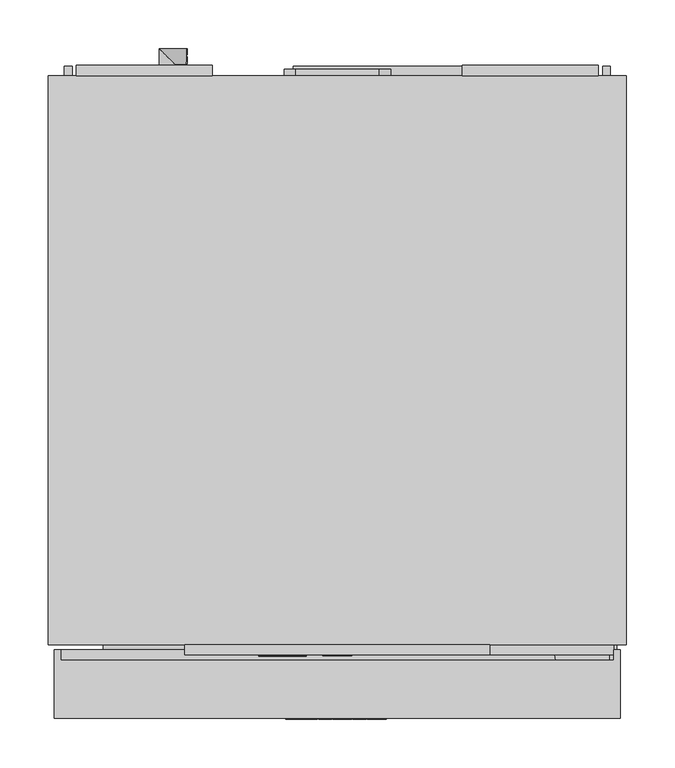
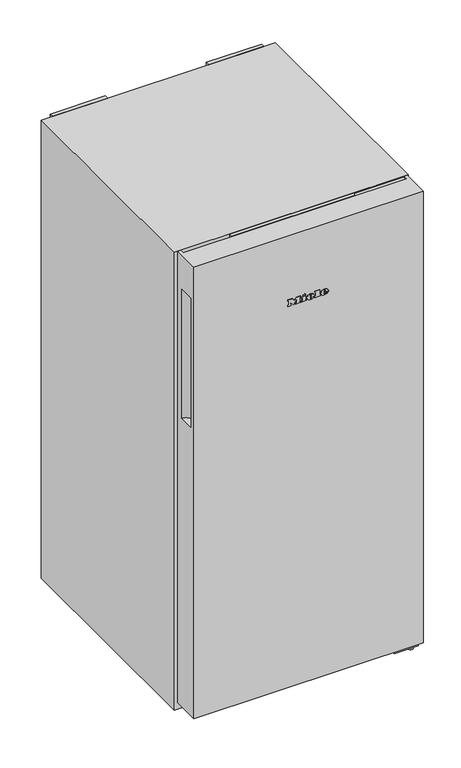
"""IFC4 building model written with IfcOpenShell, lengths in millimetres: proxy geometry, 12421630_EU1_FN4312D_WS : 37431244_EU1_12421630_FN4312D_WS."""

from ifc_helpers import new_model, si_unit, point, frame, frame_2d, origin, origin_with_axes, place, context, project, spatial, polyline, circle_curve, ellipse_curve, trimmed, segment, composite_curve, outline, extrude, faceted_brep, source, transform, mapped, element, save
from ifc_brep_helpers import plane_surface, cylinder_surface, revolved_surface, extruded_surface, advanced_brep


def specialty_equipment_585d7e85(model_context):
    return source(origin(), model_context, "Body", "SolidModel", [
        extrude(outline(polyline([(15.0, -609.5), (-15.0, -609.5), (-15.0, -606.5), (15.0, -606.5), (15.0, -609.5)])), frame((0.0, 0.0, 1212.0), z_axis=(0.0, 0.0, 1.0), x_axis=(1.0, 0.0, 0.0)), (0.0, 0.0, 1.0), 28.0),
        extrude(outline(polyline([(1245.5, 105.0), (1245.5, -105.0), (1206.5, -105.0), (1206.5, 105.0), (1245.5, 105.0)]), holes=[polyline([(1240.0, -15.0), (1240.0, 15.0), (1212.0, 15.0), (1212.0, -15.0), (1240.0, -15.0)])]), frame((0.0, -608.5, 0.0), z_axis=(0.0, 1.0, 0.0), x_axis=(0.0, 0.0, 1.0)), (0.0, 0.0, 1.0), 2.0),
        faceted_brep([(157.5, -598.5, 1202.0), (157.5, -608.5, 1202.0), (-157.5, -608.5, 1202.0), (-157.5, -598.5, 1202.0), (157.5, -598.5, 1250.0), (-157.5, -598.5, 1250.0), (-157.5, -608.5, 1250.0), (157.5, -608.5, 1250.0), (-105.0, -608.5, 1245.5), (105.0, -608.5, 1245.5), (105.0, -608.5, 1206.5), (-105.0, -608.5, 1206.5), (105.0, -606.5, 1245.5), (-105.0, -606.5, 1245.5), (-105.0, -606.5, 1206.5), (105.0, -606.5, 1206.5)], [[[0, 1, 2, 3]], [[4, 5, 6, 7]], [[0, 3, 5, 4]], [[3, 2, 6, 5]], [[2, 1, 7, 6], [8, 9, 10, 11]], [[1, 0, 4, 7]], [[12, 13, 14, 15]], [[13, 12, 9, 8]], [[14, 13, 8, 11]], [[15, 14, 11, 10]], [[12, 15, 10, 9]]]),
        advanced_brep(
        [(39.0804776, -675.5, 1068.7956125), (39.0804776, -675.5, 1070.5126125), (50.4534776, -675.5, 1070.5126125), (30.6654776, -675.5, 1070.5126125), (35.3404776, -675.5, 1064.7666125), (50.1644776, -675.5, 1068.7956125), (45.0304776, -675.5, 1068.7956125), (40.9844776, -675.5, 1066.8916125), (39.0804776, -675.5, 1072.6886125), (39.0804776, -675.5, 1074.5416125), (41.9874776, -675.5, 1074.5416125), (41.9874776, -675.5, 1072.6886125), (39.0804776, -674.5, 1068.7956125), (40.9844776, -674.5, 1066.8916125), (45.0304776, -674.5, 1068.7956125), (50.1644776, -674.5, 1068.7956125), (35.3404776, -674.5, 1064.7666125), (30.6654776, -674.5, 1070.5126125), (50.4534776, -674.5, 1070.5126125), (39.0804776, -674.5, 1070.5126125), (39.0804776, -674.5, 1072.6886125), (41.9874776, -674.5, 1072.6886125), (41.9874776, -674.5, 1074.5416125), (39.0804776, -674.5, 1074.5416125)],
        [
            (0, 1),
            (1, 2),
            (2, 3, ellipse_curve(frame((40.5594776, -675.5, 1070.5126125), z_axis=(0.0, -1.0, 0.0), x_axis=(-1.0, 0.0, 0.0)), 9.894, 8.177)),
            (3, 4, circle_curve(frame((37.2445704, -675.5, 1071.0906125), z_axis=(0.0, -1.0, 0.0), x_axis=(0.0, 0.0, -1.0)), 6.6044337)),
            (4, 5, circle_curve(frame((40.361414, -675.5, 1075.5786125), z_axis=(0.0, -1.0, 0.0), x_axis=(0.0, 0.0, -1.0)), 11.9209541)),
            (5, 6),
            (6, 7, circle_curve(frame((41.8154776, -675.5, 1070.3766125), z_axis=(0.0, 1.0, 0.0), x_axis=(0.0, 0.0, -1.0)), 3.5827065)),
            (7, 0, circle_curve(frame((40.9844776, -675.5, 1068.7956125), z_axis=(0.0, 1.0, 0.0), x_axis=(0.0, 0.0, -1.0)), 1.904)),
            (8, 9),
            (9, 10, circle_curve(frame((40.5339776, -675.5, 1074.5416125), z_axis=(0.0, 1.0, 0.0), x_axis=(0.0, 0.0, -1.0)), 1.4535)),
            (10, 11),
            (11, 8),
            (12, 13, circle_curve(frame((40.9844776, -674.5, 1068.7956125), z_axis=(0.0, -1.0, 0.0), x_axis=(0.0, 0.0, -1.0)), 1.904)),
            (13, 14, circle_curve(frame((41.8154776, -674.5, 1070.3766125), z_axis=(0.0, -1.0, 0.0), x_axis=(0.0, 0.0, -1.0)), 3.5827065)),
            (14, 15),
            (15, 16, circle_curve(frame((40.361414, -674.5, 1075.5786125), z_axis=(0.0, 1.0, 0.0), x_axis=(0.0, 0.0, -1.0)), 11.9209541)),
            (16, 17, circle_curve(frame((37.2445704, -674.5, 1071.0906125), z_axis=(0.0, 1.0, 0.0), x_axis=(0.0, 0.0, -1.0)), 6.6044337)),
            (17, 18, ellipse_curve(frame((40.5594776, -674.5, 1070.5126125), z_axis=(0.0, 1.0, 0.0), x_axis=(-1.0, 0.0, 0.0)), 9.894, 8.177)),
            (18, 19),
            (19, 12),
            (20, 21),
            (21, 22),
            (22, 23, circle_curve(frame((40.5339776, -674.5, 1074.5416125), z_axis=(0.0, -1.0, 0.0), x_axis=(0.0, 0.0, -1.0)), 1.4535)),
            (23, 20),
            (0, 12),
            (19, 1),
            (18, 2),
            (5, 15),
            (14, 6),
            (17, 3),
            (13, 7),
            (16, 4),
            (8, 20),
            (23, 9),
            (22, 10),
            (21, 11),
        ],
        [
            plane_surface(frame((39.0804776, -675.5, 1070.5126125), z_axis=(0.0, -1.0, 0.0), x_axis=(0.0, 0.0, 1.0))),
            plane_surface(frame((39.0804776, -674.5, 1070.5126125), z_axis=(0.0, 1.0, 0.0), x_axis=(0.0, 0.0, -1.0))),
            plane_surface(frame((39.0804776, -675.5, 1068.7956125), z_axis=(1.0, 0.0, 0.0), x_axis=(0.0, 1.0, 0.0))),
            plane_surface(frame((39.0804776, -675.5, 1070.5126125), z_axis=(0.0, 0.0, -1.0), x_axis=(0.0, 1.0, 0.0))),
            plane_surface(frame((50.1644776, -675.5, 1068.7956125), z_axis=(0.0, 0.0, 1.0), x_axis=(0.0, 1.0, 0.0))),
            extruded_surface(trimmed(ellipse_curve(frame((40.5594776, -673.5, 1070.5126125), z_axis=(0.0, -1.0, 0.0), x_axis=(-1.0, 0.0, 0.0)), 9.894, 8.177), [point((50.4534776, -673.5, 1070.5126125))], [point((30.6654776, -673.5, 1070.5126125))], True, "CARTESIAN"), (0.0, -1.0, 0.0), 1.0),
            revolved_surface(polyline([(41.8154776, -674.5, 1066.7939059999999), (41.8154776, -675.5, 1066.7939059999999)]), (41.8154776, -674.5, 1070.3766125), (0.0, 1.0, 0.0)),
            revolved_surface(polyline([(40.9844776, -674.5, 1066.8916125), (40.9844776, -675.5, 1066.8916125)]), (40.9844776, -674.5, 1068.7956125), (0.0, 1.0, 0.0)),
            cylinder_surface(frame((37.2445704, -674.5, 1071.0906125), z_axis=(0.0, -1.0, 0.0), x_axis=(0.0, 0.0, -1.0)), 6.6044337),
            cylinder_surface(frame((40.361414, -674.5, 1075.5786125), z_axis=(0.0, -1.0, 0.0), x_axis=(0.0, 0.0, -1.0)), 11.9209541),
            plane_surface(frame((39.0804776, -675.5, 1072.6886125), z_axis=(1.0, 0.0, 0.0), x_axis=(0.0, 1.0, 0.0))),
            revolved_surface(polyline([(40.5339776, -674.5, 1073.0881124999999), (40.5339776, -675.5, 1073.0881124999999)]), (40.5339776, -674.5, 1074.5416125), (0.0, 1.0, 0.0)),
            plane_surface(frame((41.9874776, -675.5, 1074.5416125), z_axis=(-1.0, 0.0, 0.0), x_axis=(0.0, 1.0, 0.0))),
            plane_surface(frame((41.9874776, -675.5, 1072.6886125), z_axis=(0.0, 0.0, 1.0), x_axis=(0.0, 1.0, 0.0))),
        ],
        [
            (0, [[1, 2, 3, 4, 5, 6, 7, 8], [9, 10, 11, 12]]),
            (1, [[13, 14, 15, 16, 17, 18, 19, 20], [21, 22, 23, 24]]),
            (2, [[-1, 25, -20, 26]]),
            (3, [[-2, -26, -19, 27]]),
            (4, [[-6, 28, -15, 29]]),
            (5, [[-3, -27, -18, 30]]),
            (6, [[-7, -29, -14, 31]]),
            (7, [[-8, -31, -13, -25]]),
            (8, [[-4, -30, -17, 32]]),
            (9, [[-5, -32, -16, -28]]),
            (10, [[-9, 33, -24, 34]]),
            (11, [[-10, -34, -23, 35]]),
            (12, [[-11, -35, -22, 36]]),
            (13, [[-12, -36, -21, -33]]),
        ],
    ),
        advanced_brep(
        [(3.6014776, -675.5, 1068.7956125), (3.6014776, -675.5, 1070.5126125), (14.9744776, -675.5, 1070.5126125), (-4.8135224, -675.5, 1070.5126125), (-0.1385224, -675.5, 1064.7666125), (14.6854776, -675.5, 1068.7956125), (9.5514776, -675.5, 1068.7956125), (5.5054776, -675.5, 1066.8916125), (3.6014776, -675.5, 1072.6886125), (3.6014776, -675.5, 1074.5416125), (6.5084776, -675.5, 1074.5416125), (6.5084776, -675.5, 1072.6886125), (3.6014776, -674.5, 1068.7956125), (5.5054776, -674.5, 1066.8916125), (9.5514776, -674.5, 1068.7956125), (14.6854776, -674.5, 1068.7956125), (-0.1385224, -674.5, 1064.7666125), (-4.8135224, -674.5, 1070.5126125), (14.9744776, -674.5, 1070.5126125), (3.6014776, -674.5, 1070.5126125), (3.6014776, -674.5, 1072.6886125), (6.5084776, -674.5, 1072.6886125), (6.5084776, -674.5, 1074.5416125), (3.6014776, -674.5, 1074.5416125)],
        [
            (0, 1),
            (1, 2),
            (2, 3, ellipse_curve(frame((5.0804776, -675.5, 1070.5126125), z_axis=(0.0, -1.0, 0.0), x_axis=(-1.0, 0.0, 0.0)), 9.894, 8.177)),
            (3, 4, circle_curve(frame((1.7655704, -675.5, 1071.0906125), z_axis=(0.0, -1.0, 0.0), x_axis=(0.0, 0.0, -1.0)), 6.6044337)),
            (4, 5, circle_curve(frame((4.882414, -675.5, 1075.5786125), z_axis=(0.0, -1.0, 0.0), x_axis=(0.0, 0.0, -1.0)), 11.9209541)),
            (5, 6),
            (6, 7, circle_curve(frame((6.3364776, -675.5, 1070.3766125), z_axis=(0.0, 1.0, 0.0), x_axis=(0.0, 0.0, -1.0)), 3.5827065)),
            (7, 0, circle_curve(frame((5.5054776, -675.5, 1068.7956125), z_axis=(0.0, 1.0, 0.0), x_axis=(0.0, 0.0, -1.0)), 1.904)),
            (8, 9),
            (9, 10, circle_curve(frame((5.0549776, -675.5, 1074.5416125), z_axis=(0.0, 1.0, 0.0), x_axis=(0.0, 0.0, -1.0)), 1.4535)),
            (10, 11),
            (11, 8),
            (12, 13, circle_curve(frame((5.5054776, -674.5, 1068.7956125), z_axis=(0.0, -1.0, 0.0), x_axis=(0.0, 0.0, -1.0)), 1.904)),
            (13, 14, circle_curve(frame((6.3364776, -674.5, 1070.3766125), z_axis=(0.0, -1.0, 0.0), x_axis=(0.0, 0.0, -1.0)), 3.5827065)),
            (14, 15),
            (15, 16, circle_curve(frame((4.882414, -674.5, 1075.5786125), z_axis=(0.0, 1.0, 0.0), x_axis=(0.0, 0.0, -1.0)), 11.9209541)),
            (16, 17, circle_curve(frame((1.7655704, -674.5, 1071.0906125), z_axis=(0.0, 1.0, 0.0), x_axis=(0.0, 0.0, -1.0)), 6.6044337)),
            (17, 18, ellipse_curve(frame((5.0804776, -674.5, 1070.5126125), z_axis=(0.0, 1.0, 0.0), x_axis=(-1.0, 0.0, 0.0)), 9.894, 8.177)),
            (18, 19),
            (19, 12),
            (20, 21),
            (21, 22),
            (22, 23, circle_curve(frame((5.0549776, -674.5, 1074.5416125), z_axis=(0.0, -1.0, 0.0), x_axis=(0.0, 0.0, -1.0)), 1.4535)),
            (23, 20),
            (0, 12),
            (19, 1),
            (18, 2),
            (5, 15),
            (14, 6),
            (17, 3),
            (13, 7),
            (16, 4),
            (8, 20),
            (23, 9),
            (22, 10),
            (21, 11),
        ],
        [
            plane_surface(frame((3.6014776, -675.5, 1070.5126125), z_axis=(0.0, -1.0, 0.0), x_axis=(0.0, 0.0, 1.0))),
            plane_surface(frame((3.6014776, -674.5, 1070.5126125), z_axis=(0.0, 1.0, 0.0), x_axis=(0.0, 0.0, -1.0))),
            plane_surface(frame((3.6014776, -675.5, 1068.7956125), z_axis=(1.0, 0.0, 0.0), x_axis=(0.0, 1.0, 0.0))),
            plane_surface(frame((3.6014776, -675.5, 1070.5126125), z_axis=(0.0, 0.0, -1.0), x_axis=(0.0, 1.0, 0.0))),
            plane_surface(frame((14.6854776, -675.5, 1068.7956125), z_axis=(0.0, 0.0, 1.0), x_axis=(0.0, 1.0, 0.0))),
            extruded_surface(trimmed(ellipse_curve(frame((5.0804776, -673.5, 1070.5126125), z_axis=(0.0, -1.0, 0.0), x_axis=(-1.0, 0.0, 0.0)), 9.894, 8.177), [point((14.9744776, -673.5, 1070.5126125))], [point((-4.8135224, -673.5, 1070.5126125))], True, "CARTESIAN"), (0.0, -1.0, 0.0), 1.0),
            revolved_surface(polyline([(6.3364776, -674.5, 1066.7939059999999), (6.3364776, -675.5, 1066.7939059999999)]), (6.3364776, -674.5, 1070.3766125), (0.0, 1.0, 0.0)),
            revolved_surface(polyline([(5.5054776, -674.5, 1066.8916125), (5.5054776, -675.5, 1066.8916125)]), (5.5054776, -674.5, 1068.7956125), (0.0, 1.0, 0.0)),
            cylinder_surface(frame((1.7655704, -674.5, 1071.0906125), z_axis=(0.0, -1.0, 0.0), x_axis=(0.0, 0.0, -1.0)), 6.6044337),
            cylinder_surface(frame((4.882414, -674.5, 1075.5786125), z_axis=(0.0, -1.0, 0.0), x_axis=(0.0, 0.0, -1.0)), 11.9209541),
            plane_surface(frame((3.6014776, -675.5, 1072.6886125), z_axis=(1.0, 0.0, 0.0), x_axis=(0.0, 1.0, 0.0))),
            revolved_surface(polyline([(5.0549776, -674.5, 1073.0881124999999), (5.0549776, -675.5, 1073.0881124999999)]), (5.0549776, -674.5, 1074.5416125), (0.0, 1.0, 0.0)),
            plane_surface(frame((6.5084776, -675.5, 1074.5416125), z_axis=(-1.0, 0.0, 0.0), x_axis=(0.0, 1.0, 0.0))),
            plane_surface(frame((6.5084776, -675.5, 1072.6886125), z_axis=(0.0, 0.0, 1.0), x_axis=(0.0, 1.0, 0.0))),
        ],
        [
            (0, [[1, 2, 3, 4, 5, 6, 7, 8], [9, 10, 11, 12]]),
            (1, [[13, 14, 15, 16, 17, 18, 19, 20], [21, 22, 23, 24]]),
            (2, [[-1, 25, -20, 26]]),
            (3, [[-2, -26, -19, 27]]),
            (4, [[-6, 28, -15, 29]]),
            (5, [[-3, -27, -18, 30]]),
            (6, [[-7, -29, -14, 31]]),
            (7, [[-8, -31, -13, -25]]),
            (8, [[-4, -30, -17, 32]]),
            (9, [[-5, -32, -16, -28]]),
            (10, [[-9, 33, -24, 34]]),
            (11, [[-10, -34, -23, 35]]),
            (12, [[-11, -35, -22, 36]]),
            (13, [[-12, -36, -21, -33]]),
        ],
    ),
        extrude(outline(polyline([(1080.7636125, -14.9795224), (1078.0096125, -13.6875224), (1080.6956125, -7.9245224), (1083.4496125, -9.1995224), (1080.7636125, -14.9795224)])), frame((0.0, -675.5, 0.0), z_axis=(0.0, 1.0, 0.0), x_axis=(0.0, 0.0, 1.0)), (0.0, 0.0, 1.0), 1.0),
        extrude(outline(polyline([(1077.6356125, -19.1785224), (1074.5926125, -19.1785224), (1074.5926125, -17.1555224), (1067.6226125, -17.1555224), (1067.6226125, -19.1785224), (1064.7666125, -19.1785224), (1064.7666125, -5.7655224), (1067.6226125, -5.7655224), (1067.6226125, -7.7375224), (1077.6356125, -7.7375224), (1077.6356125, -19.1785224)])), frame((0.0, -675.5, 0.0), z_axis=(0.0, 1.0, 0.0), x_axis=(0.0, 0.0, 1.0)), (0.0, 0.0, 1.0), 1.0),
        extrude(outline(polyline([(1078.9956125, 15.9264776), (1078.9956125, 17.9664776), (1067.6226125, 17.9664776), (1067.6226125, 15.9264776), (1064.7666125, 15.9264776), (1064.7666125, 29.7134776), (1067.6226125, 29.7134776), (1067.6226125, 27.6224776), (1081.7666125, 27.6224776), (1081.7666125, 15.9264776), (1078.9956125, 15.9264776)])), frame((0.0, -675.5, 0.0), z_axis=(0.0, 1.0, 0.0), x_axis=(0.0, 0.0, 1.0)), (0.0, 0.0, 1.0), 1.0),
        extrude(outline(polyline([(1078.9956125, -53.0595224), (1078.9956125, -51.0025224), (1067.6226125, -51.0025224), (1067.6226125, -53.0595224), (1064.7666125, -53.0595224), (1064.7666125, -45.5795224), (1067.6226125, -45.5795224), (1067.6226125, -47.6195224), (1074.7967372, -47.6195224), (1064.7666125, -40.0205224), (1075.2068348, -32.3875224), (1067.6226125, -32.3875224), (1067.6226125, -34.4785224), (1064.7666125, -34.4785224), (1064.7666125, -20.9125224), (1067.6226125, -20.9125224), (1067.6226125, -23.0715224), (1078.9956125, -23.0715224), (1078.9956125, -20.9125224), (1081.7666125, -20.9125224), (1081.7666125, -31.2655224), (1075.3916125, -36.2295224), (1081.7666125, -41.2105224), (1081.7666125, -53.0595224), (1078.9956125, -53.0595224)])), frame((0.0, -675.5, 0.0), z_axis=(0.0, 1.0, 0.0), x_axis=(0.0, 0.0, 1.0)), (0.0, 0.0, 1.0), 1.0),
        advanced_brep(
        [(-37.64, -610.5, 1228.896), (-37.64, -610.5, 1229.704), (-32.288, -610.5, 1229.704), (-41.6, -610.5, 1229.704), (-39.4, -610.5, 1227.0), (-32.424, -610.5, 1228.896), (-34.84, -610.5, 1228.896), (-36.744, -610.5, 1228.0), (-37.64, -610.5, 1230.728), (-37.64, -610.5, 1231.6), (-36.272, -610.5, 1231.6), (-36.272, -610.5, 1230.728), (-37.64, -609.5, 1228.896), (-36.744, -609.5, 1228.0), (-34.84, -609.5, 1228.896), (-32.424, -609.5, 1228.896), (-39.4, -609.5, 1227.0), (-41.6, -609.5, 1229.704), (-32.288, -609.5, 1229.704), (-37.64, -609.5, 1229.704), (-37.64, -609.5, 1230.728), (-36.272, -609.5, 1230.728), (-36.272, -609.5, 1231.6), (-37.64, -609.5, 1231.6)],
        [
            (0, 1),
            (1, 2),
            (2, 3, ellipse_curve(frame((-36.944, -610.5, 1229.704), z_axis=(0.0, -1.0, 0.0), x_axis=(-1.0, 0.0, 0.0)), 4.656, 3.848)),
            (3, 4, circle_curve(frame((-38.5039564, -610.5, 1229.976), z_axis=(0.0, -1.0, 0.0), x_axis=(0.0, 0.0, -1.0)), 3.1079688)),
            (4, 5, circle_curve(frame((-37.0372064, -610.5, 1232.088), z_axis=(0.0, -1.0, 0.0), x_axis=(0.0, 0.0, -1.0)), 5.6098607)),
            (5, 6),
            (6, 7, circle_curve(frame((-36.3529412, -610.5, 1229.64), z_axis=(0.0, 1.0, 0.0), x_axis=(0.0, 0.0, -1.0)), 1.6859795)),
            (7, 0, circle_curve(frame((-36.744, -610.5, 1228.896), z_axis=(0.0, 1.0, 0.0), x_axis=(0.0, 0.0, -1.0)), 0.896)),
            (8, 9),
            (9, 10, circle_curve(frame((-36.956, -610.5, 1231.6), z_axis=(0.0, 1.0, 0.0), x_axis=(0.0, 0.0, -1.0)), 0.684)),
            (10, 11),
            (11, 8),
            (12, 13, circle_curve(frame((-36.744, -609.5, 1228.896), z_axis=(0.0, -1.0, 0.0), x_axis=(0.0, 0.0, -1.0)), 0.896)),
            (13, 14, circle_curve(frame((-36.3529412, -609.5, 1229.64), z_axis=(0.0, -1.0, 0.0), x_axis=(0.0, 0.0, -1.0)), 1.6859795)),
            (14, 15),
            (15, 16, circle_curve(frame((-37.0372064, -609.5, 1232.088), z_axis=(0.0, 1.0, 0.0), x_axis=(0.0, 0.0, -1.0)), 5.6098607)),
            (16, 17, circle_curve(frame((-38.5039564, -609.5, 1229.976), z_axis=(0.0, 1.0, 0.0), x_axis=(0.0, 0.0, -1.0)), 3.1079688)),
            (17, 18, ellipse_curve(frame((-36.944, -609.5, 1229.704), z_axis=(0.0, 1.0, 0.0), x_axis=(-1.0, 0.0, 0.0)), 4.656, 3.848)),
            (18, 19),
            (19, 12),
            (20, 21),
            (21, 22),
            (22, 23, circle_curve(frame((-36.956, -609.5, 1231.6), z_axis=(0.0, -1.0, 0.0), x_axis=(0.0, 0.0, -1.0)), 0.684)),
            (23, 20),
            (0, 12),
            (19, 1),
            (18, 2),
            (5, 15),
            (14, 6),
            (17, 3),
            (13, 7),
            (16, 4),
            (8, 20),
            (23, 9),
            (22, 10),
            (21, 11),
        ],
        [
            plane_surface(frame((-37.64, -610.5, 1229.704), z_axis=(0.0, -1.0, 0.0), x_axis=(0.0, 0.0, 1.0))),
            plane_surface(frame((-37.64, -609.5, 1229.704), z_axis=(0.0, 1.0, 0.0), x_axis=(0.0, 0.0, -1.0))),
            plane_surface(frame((-37.64, -610.5, 1228.896), z_axis=(1.0, 0.0, 0.0), x_axis=(0.0, 1.0, 0.0))),
            plane_surface(frame((-37.64, -610.5, 1229.704), z_axis=(0.0, 0.0, -1.0), x_axis=(0.0, 1.0, 0.0))),
            plane_surface(frame((-32.424, -610.5, 1228.896), z_axis=(0.0, 0.0, 1.0), x_axis=(0.0, 1.0, 0.0))),
            extruded_surface(trimmed(ellipse_curve(frame((-36.944, -608.5, 1229.704), z_axis=(0.0, -1.0, 0.0), x_axis=(-1.0, 0.0, 0.0)), 4.656, 3.848), [point((-32.288, -608.5, 1229.704))], [point((-41.6, -608.5, 1229.704))], True, "CARTESIAN"), (0.0, -1.0, 0.0), 1.0),
            revolved_surface(polyline([(-36.3529412, -609.5, 1227.9540205), (-36.3529412, -610.5, 1227.9540205)]), (-36.3529412, -609.5, 1229.64), (0.0, 1.0, 0.0)),
            revolved_surface(polyline([(-36.744, -609.5, 1228.0), (-36.744, -610.5, 1228.0)]), (-36.744, -609.5, 1228.896), (0.0, 1.0, 0.0)),
            cylinder_surface(frame((-38.5039564, -609.5, 1229.976), z_axis=(0.0, -1.0, 0.0), x_axis=(0.0, 0.0, -1.0)), 3.1079688),
            cylinder_surface(frame((-37.0372064, -609.5, 1232.088), z_axis=(0.0, -1.0, 0.0), x_axis=(0.0, 0.0, -1.0)), 5.6098607),
            plane_surface(frame((-37.64, -610.5, 1230.728), z_axis=(1.0, 0.0, 0.0), x_axis=(0.0, 1.0, 0.0))),
            revolved_surface(polyline([(-36.956, -609.5, 1230.916), (-36.956, -610.5, 1230.916)]), (-36.956, -609.5, 1231.6), (0.0, 1.0, 0.0)),
            plane_surface(frame((-36.272, -610.5, 1231.6), z_axis=(-1.0, 0.0, 0.0), x_axis=(0.0, 1.0, 0.0))),
            plane_surface(frame((-36.272, -610.5, 1230.728), z_axis=(0.0, 0.0, 1.0), x_axis=(0.0, 1.0, 0.0))),
        ],
        [
            (0, [[1, 2, 3, 4, 5, 6, 7, 8], [9, 10, 11, 12]]),
            (1, [[13, 14, 15, 16, 17, 18, 19, 20], [21, 22, 23, 24]]),
            (2, [[-1, 25, -20, 26]]),
            (3, [[-2, -26, -19, 27]]),
            (4, [[-6, 28, -15, 29]]),
            (5, [[-3, -27, -18, 30]]),
            (6, [[-7, -29, -14, 31]]),
            (7, [[-8, -31, -13, -25]]),
            (8, [[-4, -30, -17, 32]]),
            (9, [[-5, -32, -16, -28]]),
            (10, [[-9, 33, -24, 34]]),
            (11, [[-10, -34, -23, 35]]),
            (12, [[-11, -35, -22, 36]]),
            (13, [[-12, -36, -21, -33]]),
        ],
    ),
        advanced_brep(
        [(-54.336, -610.5, 1228.896), (-54.336, -610.5, 1229.704), (-48.984, -610.5, 1229.704), (-58.296, -610.5, 1229.704), (-56.096, -610.5, 1227.0), (-49.12, -610.5, 1228.896), (-51.536, -610.5, 1228.896), (-53.44, -610.5, 1228.0), (-54.336, -610.5, 1230.728), (-54.336, -610.5, 1231.6), (-52.968, -610.5, 1231.6), (-52.968, -610.5, 1230.728), (-54.336, -609.5, 1228.896), (-53.44, -609.5, 1228.0), (-51.536, -609.5, 1228.896), (-49.12, -609.5, 1228.896), (-56.096, -609.5, 1227.0), (-58.296, -609.5, 1229.704), (-48.984, -609.5, 1229.704), (-54.336, -609.5, 1229.704), (-54.336, -609.5, 1230.728), (-52.968, -609.5, 1230.728), (-52.968, -609.5, 1231.6), (-54.336, -609.5, 1231.6)],
        [
            (0, 1),
            (1, 2),
            (2, 3, ellipse_curve(frame((-53.64, -610.5, 1229.704), z_axis=(0.0, -1.0, 0.0), x_axis=(-1.0, 0.0, 0.0)), 4.656, 3.848)),
            (3, 4, circle_curve(frame((-55.1999564, -610.5, 1229.976), z_axis=(0.0, -1.0, 0.0), x_axis=(0.0, 0.0, -1.0)), 3.1079688)),
            (4, 5, circle_curve(frame((-53.7332064, -610.5, 1232.088), z_axis=(0.0, -1.0, 0.0), x_axis=(0.0, 0.0, -1.0)), 5.6098607)),
            (5, 6),
            (6, 7, circle_curve(frame((-53.0489412, -610.5, 1229.64), z_axis=(0.0, 1.0, 0.0), x_axis=(0.0, 0.0, -1.0)), 1.6859795)),
            (7, 0, circle_curve(frame((-53.44, -610.5, 1228.896), z_axis=(0.0, 1.0, 0.0), x_axis=(0.0, 0.0, -1.0)), 0.896)),
            (8, 9),
            (9, 10, circle_curve(frame((-53.652, -610.5, 1231.6), z_axis=(0.0, 1.0, 0.0), x_axis=(0.0, 0.0, -1.0)), 0.684)),
            (10, 11),
            (11, 8),
            (12, 13, circle_curve(frame((-53.44, -609.5, 1228.896), z_axis=(0.0, -1.0, 0.0), x_axis=(0.0, 0.0, -1.0)), 0.896)),
            (13, 14, circle_curve(frame((-53.0489412, -609.5, 1229.64), z_axis=(0.0, -1.0, 0.0), x_axis=(0.0, 0.0, -1.0)), 1.6859795)),
            (14, 15),
            (15, 16, circle_curve(frame((-53.7332064, -609.5, 1232.088), z_axis=(0.0, 1.0, 0.0), x_axis=(0.0, 0.0, -1.0)), 5.6098607)),
            (16, 17, circle_curve(frame((-55.1999564, -609.5, 1229.976), z_axis=(0.0, 1.0, 0.0), x_axis=(0.0, 0.0, -1.0)), 3.1079688)),
            (17, 18, ellipse_curve(frame((-53.64, -609.5, 1229.704), z_axis=(0.0, 1.0, 0.0), x_axis=(-1.0, 0.0, 0.0)), 4.656, 3.848)),
            (18, 19),
            (19, 12),
            (20, 21),
            (21, 22),
            (22, 23, circle_curve(frame((-53.652, -609.5, 1231.6), z_axis=(0.0, -1.0, 0.0), x_axis=(0.0, 0.0, -1.0)), 0.684)),
            (23, 20),
            (0, 12),
            (19, 1),
            (18, 2),
            (5, 15),
            (14, 6),
            (17, 3),
            (13, 7),
            (16, 4),
            (8, 20),
            (23, 9),
            (22, 10),
            (21, 11),
        ],
        [
            plane_surface(frame((-54.336, -610.5, 1229.704), z_axis=(0.0, -1.0, 0.0), x_axis=(0.0, 0.0, 1.0))),
            plane_surface(frame((-54.336, -609.5, 1229.704), z_axis=(0.0, 1.0, 0.0), x_axis=(0.0, 0.0, -1.0))),
            plane_surface(frame((-54.336, -610.5, 1228.896), z_axis=(1.0, 0.0, 0.0), x_axis=(0.0, 1.0, 0.0))),
            plane_surface(frame((-54.336, -610.5, 1229.704), z_axis=(0.0, 0.0, -1.0), x_axis=(0.0, 1.0, 0.0))),
            plane_surface(frame((-49.12, -610.5, 1228.896), z_axis=(0.0, 0.0, 1.0), x_axis=(0.0, 1.0, 0.0))),
            extruded_surface(trimmed(ellipse_curve(frame((-53.64, -608.5, 1229.704), z_axis=(0.0, -1.0, 0.0), x_axis=(-1.0, 0.0, 0.0)), 4.656, 3.848), [point((-48.984, -608.5, 1229.704))], [point((-58.296, -608.5, 1229.704))], True, "CARTESIAN"), (0.0, -1.0, 0.0), 1.0),
            revolved_surface(polyline([(-53.0489412, -609.5, 1227.9540205), (-53.0489412, -610.5, 1227.9540205)]), (-53.0489412, -609.5, 1229.64), (0.0, 1.0, 0.0)),
            revolved_surface(polyline([(-53.44, -609.5, 1228.0), (-53.44, -610.5, 1228.0)]), (-53.44, -609.5, 1228.896), (0.0, 1.0, 0.0)),
            cylinder_surface(frame((-55.1999564, -609.5, 1229.976), z_axis=(0.0, -1.0, 0.0), x_axis=(0.0, 0.0, -1.0)), 3.1079688),
            cylinder_surface(frame((-53.7332064, -609.5, 1232.088), z_axis=(0.0, -1.0, 0.0), x_axis=(0.0, 0.0, -1.0)), 5.6098607),
            plane_surface(frame((-54.336, -610.5, 1230.728), z_axis=(1.0, 0.0, 0.0), x_axis=(0.0, 1.0, 0.0))),
            revolved_surface(polyline([(-53.652, -609.5, 1230.916), (-53.652, -610.5, 1230.916)]), (-53.652, -609.5, 1231.6), (0.0, 1.0, 0.0)),
            plane_surface(frame((-52.968, -610.5, 1231.6), z_axis=(-1.0, 0.0, 0.0), x_axis=(0.0, 1.0, 0.0))),
            plane_surface(frame((-52.968, -610.5, 1230.728), z_axis=(0.0, 0.0, 1.0), x_axis=(0.0, 1.0, 0.0))),
        ],
        [
            (0, [[1, 2, 3, 4, 5, 6, 7, 8], [9, 10, 11, 12]]),
            (1, [[13, 14, 15, 16, 17, 18, 19, 20], [21, 22, 23, 24]]),
            (2, [[-1, 25, -20, 26]]),
            (3, [[-2, -26, -19, 27]]),
            (4, [[-6, 28, -15, 29]]),
            (5, [[-3, -27, -18, 30]]),
            (6, [[-7, -29, -14, 31]]),
            (7, [[-8, -31, -13, -25]]),
            (8, [[-4, -30, -17, 32]]),
            (9, [[-5, -32, -16, -28]]),
            (10, [[-9, 33, -24, 34]]),
            (11, [[-10, -34, -23, 35]]),
            (12, [[-11, -35, -22, 36]]),
            (13, [[-12, -36, -21, -33]]),
        ],
    ),
        extrude(outline(polyline([(1234.528, -63.08), (1233.232, -62.472), (1234.496, -59.76), (1235.792, -60.36), (1234.528, -63.08)])), frame((0.0, -610.5, 0.0), z_axis=(0.0, 1.0, 0.0), x_axis=(0.0, 0.0, 1.0)), (0.0, 0.0, 1.0), 1.0),
        extrude(outline(polyline([(1233.056, -65.056), (1231.624, -65.056), (1231.624, -64.104), (1228.344, -64.104), (1228.344, -65.056), (1227.0, -65.056), (1227.0, -58.744), (1228.344, -58.744), (1228.344, -59.672), (1233.056, -59.672), (1233.056, -65.056)])), frame((0.0, -610.5, 0.0), z_axis=(0.0, 1.0, 0.0), x_axis=(0.0, 0.0, 1.0)), (0.0, 0.0, 1.0), 1.0),
        extrude(outline(polyline([(1233.696, -48.536), (1233.696, -47.576), (1228.344, -47.576), (1228.344, -48.536), (1227.0, -48.536), (1227.0, -42.048), (1228.344, -42.048), (1228.344, -43.032), (1235.0, -43.032), (1235.0, -48.536), (1233.696, -48.536)])), frame((0.0, -610.5, 0.0), z_axis=(0.0, 1.0, 0.0), x_axis=(0.0, 0.0, 1.0)), (0.0, 0.0, 1.0), 1.0),
        extrude(outline(polyline([(1233.696, -81.0), (1233.696, -80.032), (1228.344, -80.032), (1228.344, -81.0), (1227.0, -81.0), (1227.0, -77.48), (1228.344, -77.48), (1228.344, -78.44), (1231.7471247, -78.44), (1227.0, -74.864), (1231.8152223, -71.272), (1228.344, -71.272), (1228.344, -72.256), (1227.0, -72.256), (1227.0, -65.872), (1228.344, -65.872), (1228.344, -66.888), (1233.696, -66.888), (1233.696, -65.872), (1235.0, -65.872), (1235.0, -70.744), (1232.0, -73.08), (1235.0, -75.424), (1235.0, -81.0), (1233.696, -81.0)])), frame((0.0, -610.5, 0.0), z_axis=(0.0, 1.0, 0.0), x_axis=(0.0, 0.0, 1.0)), (0.0, 0.0, 1.0), 1.0),
        extrude(outline(polyline([(-42.8527823, 0.0), (-48.1304417, 3.2708192), (-29.8908031, 3.2708192), (-34.9274229, 0.0), (-42.8527823, 0.0)])), frame((238.5469678, 0.0, 0.0), z_axis=(1.0, 0.0, 0.0), x_axis=(0.0, 1.0, 0.0)), (0.0, 0.0, 1.0), 15.1632647),
        extrude(outline(polyline([(-42.8527823, 0.0), (-48.1304417, 3.2708192), (-29.8908031, 3.2708192), (-34.9274229, 0.0), (-42.8527823, 0.0)])), frame((-253.7102325, 0.0, 0.0), z_axis=(1.0, 0.0, 0.0), x_axis=(0.0, 1.0, 0.0)), (0.0, 0.0, 1.0), 15.1632647),
        extrude(outline(polyline([(2.1227397, 65.0), (2.1227397, 75.045631), (9.343037, 75.045631), (9.343037, 73.7899271), (3.3784436, 73.7899271), (3.3784436, 70.8076304), (9.029111, 70.8076304), (9.029111, 69.5519266), (3.3784436, 69.5519266), (3.3784436, 66.2557039), (9.5, 66.2557039), (9.5, 65.0), (2.1227397, 65.0)])), frame((-156.0615355, 0.0, 0.0), z_axis=(1.0, 0.0, 0.0), x_axis=(0.0, 1.0, 0.0)), (0.0, 0.0, 1.0), 1.0),
        extrude(outline(polyline([(11.3835558, 65.0), (11.3835558, 75.045631), (12.6392597, 75.045631), (12.6392597, 66.2557039), (17.6620752, 66.2557039), (17.6620752, 65.0), (11.3835558, 65.0)])), frame((-156.0615355, 0.0, 0.0), z_axis=(1.0, 0.0, 0.0), x_axis=(0.0, 1.0, 0.0)), (0.0, 0.0, 1.0), 1.0),
        advanced_brep(
        [(-168.0615355, -10.5, 70.0), (-184.0615355, -10.5, 70.0), (-168.0615355, 1.5, 70.0), (-184.0615355, 17.5, 70.0), (-156.0615355, 1.5, 70.0), (-156.0615355, 17.5, 70.0)],
        [
            (0, 1, circle_curve(frame((-176.0615355, -10.5, 70.0), z_axis=(0.0, -1.0, 0.0), x_axis=(-1.0, 0.0, 0.0)), 8.0)),
            (1, 0, circle_curve(frame((-176.0615355, -10.5, 70.0), z_axis=(0.0, -1.0, 0.0), x_axis=(-1.0, 0.0, 0.0)), 8.0)),
            (0, 2),
            (2, 3, ellipse_curve(frame((-176.0615355, 9.5, 70.0), z_axis=(-0.7071067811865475, -0.7071067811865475, 0.0), x_axis=(0.7071067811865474, -0.7071067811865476, 0.0)), 11.3137085, 8.0)),
            (3, 1),
            (3, 2, ellipse_curve(frame((-176.0615355, 9.5, 70.0), z_axis=(-0.7071067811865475, -0.7071067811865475, 0.0), x_axis=(0.7071067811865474, -0.7071067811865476, 0.0)), 11.3137085, 8.0)),
            (4, 5, circle_curve(frame((-156.0615355, 9.5, 70.0), z_axis=(1.0, 0.0, 0.0), x_axis=(0.0, 1.0, 0.0)), 8.0)),
            (5, 4, circle_curve(frame((-156.0615355, 9.5, 70.0), z_axis=(1.0, 0.0, 0.0), x_axis=(0.0, 1.0, 0.0)), 8.0)),
            (2, 4),
            (5, 3),
        ],
        [
            plane_surface(frame((-176.0615355, -10.5, 0.0), z_axis=(0.0, -1.0, 0.0), x_axis=(0.0, 0.0, 1.0))),
            cylinder_surface(frame((-176.0615355, -10.5, 70.0), z_axis=(0.0, -1.0, 0.0), x_axis=(-1.0, 0.0, 0.0)), 8.0),
            plane_surface(frame((-156.0615355, 9.5, 0.0), z_axis=(1.0, 0.0, 0.0), x_axis=(0.0, 0.0, 1.0))),
            cylinder_surface(frame((-176.0615355, 9.5, 70.0), z_axis=(-1.0, 0.0, 0.0), x_axis=(0.0, 1.0, 0.0)), 8.0),
        ],
        [
            (0, [[1, 2]]),
            (1, [[-1, 3, 4, 5]]),
            (1, [[-2, -5, 6, -3]]),
            (2, [[7, 8]]),
            (3, [[-4, 9, -8, 10]]),
            (3, [[-6, -10, -7, -9]]),
        ],
    ),
        extrude(outline(polyline([(-118.9841834, 15.0), (-62.9841834, 15.0), (-75.5706779, 0.0), (-106.3976889, 0.0), (-118.9841834, 15.0)])), frame((-288.5, 0.0, 0.0), z_axis=(1.0, 0.0, 0.0), x_axis=(0.0, 1.0, 0.0)), (0.0, 0.0, 1.0), 16.0),
        extrude(outline(polyline([(-118.9841834, 15.0), (-62.9841834, 15.0), (-75.5706779, 0.0), (-106.3976889, 0.0), (-118.9841834, 15.0)])), frame((272.5, 0.0, 0.0), z_axis=(1.0, 0.0, 0.0), x_axis=(0.0, 1.0, 0.0)), (0.0, 0.0, 1.0), 16.0),
        extrude(outline(polyline([(281.8051758, -10.5), (274.2947998, -10.5), (274.2947998, -0.5), (281.8051758, -0.5), (281.8051758, -10.5)])), frame((0.0, 0.0, 239.4947815), z_axis=(0.0, 0.0, 1.0), x_axis=(1.0, 0.0, 0.0)), (0.0, 0.0, 1.0), 18.4103699),
        extrude(outline(polyline([(-274.0827332, -10.5), (-282.1051331, -10.5), (-282.1051331, -0.5), (-274.0827332, -0.5), (-274.0827332, -10.5)])), frame((0.0, 0.0, 239.4947815), z_axis=(0.0, 0.0, 1.0), x_axis=(1.0, 0.0, 0.0)), (0.0, 0.0, 1.0), 18.3224792),
        extrude(outline(polyline([(190.0, 177.5), (133.0, 177.5), (133.0, -45.5), (64.0, -45.5), (64.0, 258.5), (190.0, 258.5), (190.0, 177.5)])), frame((0.0, -10.5, 0.0), z_axis=(0.0, 1.0, 0.0), x_axis=(0.0, 0.0, 1.0)), (0.0, 0.0, 1.0), 10.0),
        extrude(outline(polyline([(269.5372046, -10.5), (129.0, -10.5), (129.0, 0.0), (269.5372046, 0.0), (269.5372046, -10.5)])), frame((0.0, 0.0, 1226.0), z_axis=(0.0, 0.0, 1.0), x_axis=(1.0, 0.0, 0.0)), (0.0, 0.0, 1.0), 24.0),
        extrude(outline(polyline([(-129.0, -10.5), (-269.5372046, -10.5), (-269.5372046, 0.0), (-129.0, 0.0), (-129.0, -10.5)])), frame((0.0, 0.0, 1226.0), z_axis=(0.0, 0.0, 1.0), x_axis=(1.0, 0.0, 0.0)), (0.0, 0.0, 1.0), 24.0),
        extrude(outline(polyline([(64.0, -159.5), (-64.0, -159.5), (-64.0, -71.5), (64.0, -71.5), (64.0, -159.5)])), frame((0.0, 0.0, 1036.0), z_axis=(0.0, 0.0, 1.0), x_axis=(1.0, 0.0, 0.0)), (0.0, 0.0, 1.0), 177.6535004),
        extrude(outline(polyline([(55.0, -521.5), (55.0, -575.5), (-55.0, -575.5), (-55.0, -521.5), (55.0, -521.5)])), frame((0.0, 0.0, 1159.0), z_axis=(0.0, 0.0, 1.0), x_axis=(1.0, 0.0, 0.0)), (0.0, 0.0, 1.0), 1.0),
        extrude(outline(composite_curve([segment(trimmed(circle_curve(frame_2d((-248.75, -584.5)), 10.0), [point((-258.75, -584.5))], [point((-238.75, -584.5))], False, "CARTESIAN"), True, "CONTINUOUS"), segment(trimmed(circle_curve(frame_2d((-248.75, -584.5)), 10.0), [point((-238.75, -584.5))], [point((-258.75, -584.5))], False, "CARTESIAN"), True, "CONTINUOUS")], self_intersect=False)), origin_with_axes(), (0.0, 0.0, 1.0), 15.0),
        extrude(outline(composite_curve([segment(trimmed(circle_curve(frame_2d((248.75, -584.4761218)), 10.0), [point((238.75, -584.4761218))], [point((258.75, -584.4761218))], False, "CARTESIAN"), True, "CONTINUOUS"), segment(trimmed(circle_curve(frame_2d((248.75, -584.4761218)), 10.0), [point((258.75, -584.4761218))], [point((238.75, -584.4761218))], False, "CARTESIAN"), True, "CONTINUOUS")], self_intersect=False)), origin_with_axes(), (0.0, 0.0, 1.0), 15.0),
        extrude(outline(polyline([(240.0, -290.5), (-240.0, -290.5), (-240.0, -71.5), (240.0, -71.5), (240.0, -290.5)])), frame((0.0, 0.0, 129.0), z_axis=(0.0, 0.0, 1.0), x_axis=(1.0, 0.0, 0.0)), (0.0, 0.0, 1.0), 190.0),
        extrude(outline(composite_curve([segment(trimmed(circle_curve(frame_2d((562.0, -43.0)), 12.0), [point((574.0, -43.0))], [point((562.0, -55.0))], False, "CARTESIAN"), True, "CONTINUOUS"), segment(polyline([(562.0, -55.0), (538.0, -55.0)]), True, "CONTINUOUS"), segment(trimmed(circle_curve(frame_2d((538.0, -43.0)), 12.0), [point((538.0, -55.0))], [point((526.0, -43.0))], False, "CARTESIAN"), True, "CONTINUOUS"), segment(polyline([(526.0, -43.0), (526.0, 43.0)]), True, "CONTINUOUS"), segment(trimmed(circle_curve(frame_2d((538.0, 43.0)), 12.0), [point((526.0, 43.0))], [point((538.0, 55.0))], False, "CARTESIAN"), True, "CONTINUOUS"), segment(polyline([(538.0, 55.0), (562.0, 55.0)]), True, "CONTINUOUS"), segment(trimmed(circle_curve(frame_2d((562.0, 43.0)), 12.0), [point((562.0, 55.0))], [point((574.0, 43.0))], False, "CARTESIAN"), True, "CONTINUOUS"), segment(polyline([(574.0, 43.0), (574.0, -43.0)]), True, "CONTINUOUS")], self_intersect=False)), frame((0.0, -10.5, 0.0), z_axis=(0.0, 1.0, 0.0), x_axis=(0.0, 0.0, 1.0)), (0.0, 0.0, 1.0), 7.0),
        extrude(outline(polyline([(272.5, -28.6436023), (272.5, -529.6387407), (-272.5, -529.6387407), (-272.5, -28.6436023), (272.5, -28.6436023)])), frame((0.0, 0.0, 3.2708192), z_axis=(0.0, 0.0, 1.0), x_axis=(1.0, 0.0, 0.0)), (0.0, 0.0, 1.0), 11.7291808),
        faceted_brep([(298.5, -10.5, 1250.0), (-298.5, -10.5, 1250.0), (-298.5, -598.5, 1250.0), (298.5, -598.5, 1250.0), (298.5, -10.5, 15.0), (298.5, -598.5, 15.0), (-298.5, -598.5, 15.0), (-298.5, -10.5, 15.0), (-240.0, -598.5, 1160.0), (240.0, -598.5, 1160.0), (240.0, -598.5, 129.0), (-240.0, -598.5, 129.0), (-240.0, -468.5, 1160.0), (240.0, -468.5, 1160.0), (240.0, -71.5, 129.0), (-240.0, -71.5, 129.0), (240.0, -71.5, 1213.6535004), (-240.0, -71.5, 1213.6535004), (-240.0, -468.5, 1213.6535004), (240.0, -468.5, 1213.6535004)], [[[0, 1, 2, 3]], [[4, 5, 6, 7]], [[1, 0, 4, 7]], [[2, 1, 7, 6]], [[3, 2, 6, 5], [8, 9, 10, 11]], [[0, 3, 5, 4]], [[9, 8, 12, 13]], [[14, 15, 11, 10]], [[15, 14, 16, 17]], [[15, 17, 18, 12, 8, 11]], [[16, 14, 10, 9, 13, 19]], [[19, 18, 17, 16]], [[18, 19, 13, 12]]]),
        extrude(outline(composite_curve([segment(trimmed(circle_curve(frame_2d((276.9539666, -644.7854989)), 7.0), [point((269.9539666, -644.7854989))], [point((283.9539666, -644.7854989))], False, "CARTESIAN"), True, "CONTINUOUS"), segment(trimmed(circle_curve(frame_2d((276.9539666, -644.7854989)), 7.0), [point((283.9539666, -644.7854989))], [point((269.9539666, -644.7854989))], False, "CARTESIAN"), True, "CONTINUOUS")], self_intersect=False)), frame((0.0, 0.0, 10.0), z_axis=(0.0, 0.0, 1.0), x_axis=(1.0, 0.0, 0.0)), (0.0, 0.0, 1.0), 11.0),
        extrude(outline(polyline([(291.8779467, -660.5), (227.8680756, -660.5), (227.8680756, -603.5), (291.8779467, -603.5), (291.8779467, -660.5)])), frame((0.0, 0.0, 31.5014777), z_axis=(0.0, 0.0, 1.0), x_axis=(1.0, 0.0, 0.0)), (0.0, 0.0, 1.0), 4.4985223),
        extrude(outline(composite_curve([segment(trimmed(circle_curve(frame_2d((274.5, -642.5)), 10.0), [point((264.5, -642.5))], [point((284.5, -642.5))], False, "CARTESIAN"), True, "CONTINUOUS"), segment(trimmed(circle_curve(frame_2d((274.5, -642.5)), 10.0), [point((284.5, -642.5))], [point((264.5, -642.5))], False, "CARTESIAN"), True, "CONTINUOUS")], self_intersect=False)), frame((0.0, 0.0, 27.0014777), z_axis=(0.0, 0.0, 1.0), x_axis=(1.0, 0.0, 0.0)), (0.0, 0.0, 1.0), 4.5),
        extrude(outline(polyline([(242.0, -603.5), (-242.0, -603.5), (-242.0, -598.5), (242.0, -598.5), (242.0, -603.5)])), frame((0.0, 0.0, 128.0014777), z_axis=(0.0, 0.0, 1.0), x_axis=(1.0, 0.0, 0.0)), (0.0, 0.0, 1.0), 1039.0),
        extrude(outline(polyline([(233.3907627, -657.6644264), (224.7217479, -608.5), (280.684623, -608.5), (282.5, -657.6644264), (233.3907627, -657.6644264)])), frame((0.0, 0.0, 1217.6745089), z_axis=(0.0, 0.0, 1.0), x_axis=(1.0, 0.0, 0.0)), (0.0, 0.0, 1.0), 23.7898602),
        extrude(outline(polyline([(285.5, -608.5), (157.5, -608.5), (157.5, -598.5), (285.5, -598.5), (285.5, -608.5)])), frame((0.0, 0.0, 1200.5014777), z_axis=(0.0, 0.0, 1.0), x_axis=(1.0, 0.0, 0.0)), (0.0, 0.0, 1.0), 48.0),
        extrude(outline(polyline([(-598.5, 21.0), (-660.5, 21.0), (-660.5, 27.0014777), (-603.5, 27.0014777), (-603.5, 69.0014777), (-598.5, 69.0014777), (-598.5, 21.0)])), frame((226.5, 0.0, 0.0), z_axis=(1.0, 0.0, 0.0), x_axis=(0.0, 1.0, 0.0)), (0.0, 0.0, 1.0), 62.0),
        advanced_brep(
        [(292.5, -674.5, 1254.0), (-292.5, -674.5, 1254.0), (-292.5, -674.5, 36.0), (292.5, -674.5, 36.0), (292.5, -603.5, 1254.0), (292.5, -603.5, 36.0), (222.5, -603.5, 36.0), (222.5, -603.5, 66.0), (-222.5, -603.5, 66.0), (-222.5, -603.5, 36.0), (-292.5, -603.5, 36.0), (-292.5, -603.5, 1254.0), (-285.5, -603.5, 1254.0), (-285.5, -603.5, 1197.0), (285.5, -603.5, 1197.0), (285.5, -603.5, 1254.0), (285.5, -614.5, 1254.0), (-285.5, -614.5, 1254.0), (-292.5, -660.2074562, 813.0), (-292.5, -620.2074562, 813.0), (-292.5, -620.2074562, 1161.0), (-292.5, -660.2074562, 1161.0), (-222.5, -645.4397305, 36.0), (222.5, -645.4397305, 36.0), (222.5, -617.5, 66.0), (-222.5, -617.5, 66.0), (285.5, -614.5, 1197.0), (-285.5, -614.5, 1197.0), (285.5, -614.5, 1248.5014777), (192.5, -614.5, 1248.5014777), (192.5, -614.5, 1200.5014777), (285.5, -614.5, 1200.5014777), (192.5, -660.3426016, 1248.5014777), (285.5, -660.3426016, 1248.5014777), (285.5, -660.3426016, 1200.5014777), (192.5, -660.3426016, 1200.5014777), (-272.5, -640.2074562, 813.0), (-272.5, -640.2074562, 1161.0)],
        [
            (0, 1),
            (1, 2),
            (2, 3),
            (3, 0),
            (4, 5),
            (5, 6),
            (6, 7),
            (7, 8),
            (8, 9),
            (9, 10),
            (10, 11),
            (11, 12),
            (12, 13),
            (13, 14),
            (14, 15),
            (15, 4),
            (0, 4),
            (15, 16),
            (16, 17),
            (17, 12),
            (11, 1),
            (10, 2),
            (18, 19),
            (19, 20),
            (20, 21),
            (21, 18),
            (9, 22),
            (22, 23),
            (23, 6),
            (5, 3),
            (24, 7),
            (23, 24, circle_curve(frame((222.5, -612.8834964, 33.6900621), z_axis=(-1.0, 0.0, 0.0), x_axis=(0.0, 1.0, 0.0)), 32.6380788)),
            (25, 22, circle_curve(frame((-222.5, -612.8834964, 33.6900621), z_axis=(1.0, 0.0, 0.0), x_axis=(0.0, 1.0, 0.0)), 32.6380788)),
            (8, 25),
            (25, 24),
            (26, 27),
            (27, 17),
            (16, 28),
            (28, 29),
            (29, 30),
            (30, 31),
            (31, 26),
            (26, 14),
            (13, 27),
            (32, 33),
            (33, 34),
            (34, 35),
            (35, 32),
            (35, 30),
            (29, 32),
            (34, 31),
            (33, 28),
            (18, 36, circle_curve(frame((-292.5, -640.2074562, 813.0), z_axis=(0.0, 0.0, 1.0), x_axis=(1.0, 0.0, 0.0)), 20.0)),
            (36, 19, circle_curve(frame((-292.5, -640.2074562, 813.0), z_axis=(0.0, 0.0, 1.0), x_axis=(1.0, 0.0, 0.0)), 20.0)),
            (20, 37, circle_curve(frame((-292.5, -640.2074562, 1161.0), z_axis=(0.0, 0.0, -1.0), x_axis=(1.0, 0.0, 0.0)), 20.0)),
            (37, 21, circle_curve(frame((-292.5, -640.2074562, 1161.0), z_axis=(0.0, 0.0, -1.0), x_axis=(1.0, 0.0, 0.0)), 20.0)),
            (37, 36),
        ],
        [
            plane_surface(frame((-292.5, -674.5, 1254.0), z_axis=(0.0, -1.0, 0.0), x_axis=(-1.0, 0.0, 0.0))),
            plane_surface(frame((-292.5, -603.5, 1254.0), z_axis=(0.0, 1.0, 0.0), x_axis=(1.0, 0.0, 0.0))),
            plane_surface(frame((292.5, -674.5, 1254.0), z_axis=(0.0, 0.0, 1.0), x_axis=(0.0, 1.0, 0.0))),
            plane_surface(frame((-292.5, -674.5, 1254.0), z_axis=(-1.0, 0.0, 0.0), x_axis=(0.0, 1.0, 0.0))),
            plane_surface(frame((-292.5, -674.5, 36.0), z_axis=(0.0, 0.0, -1.0), x_axis=(0.0, 1.0, 0.0))),
            plane_surface(frame((292.5, -674.5, 36.0), z_axis=(1.0, 0.0, 0.0), x_axis=(0.0, 1.0, 0.0))),
            plane_surface(frame((222.5, -580.2454176, 33.6900621), z_axis=(-1.0, 0.0, 0.0), x_axis=(0.0, 0.0, 1.0))),
            plane_surface(frame((-222.5, -580.2454176, 33.6900621), z_axis=(1.0, 0.0, 0.0), x_axis=(0.0, 0.0, -1.0))),
            revolved_surface(polyline([(222.5, -580.2454176, 33.6900621), (-222.5, -580.2454176, 33.6900621)]), (-222.5, -612.8834964, 33.6900621), (1.0, 0.0, 0.0)),
            plane_surface(frame((222.5, -603.5, 66.0), z_axis=(0.0, 0.0, -1.0), x_axis=(-1.0, 0.0, 0.0))),
            plane_surface(frame((285.5, -614.5, 1267.7474822), z_axis=(0.0, 1.0, 0.0), x_axis=(-1.0, 0.0, 0.0))),
            plane_surface(frame((285.5, -614.5, 1197.0), z_axis=(0.0, 0.0, 1.0), x_axis=(-1.0, 0.0, 0.0))),
            plane_surface(frame((-285.5, -603.5, 1197.0), z_axis=(1.0, 0.0, 0.0), x_axis=(0.0, 0.0, -1.0))),
            plane_surface(frame((192.5, -660.3426016, 1248.5014777), z_axis=(0.0, 1.0, 0.0), x_axis=(0.0, 0.0, -1.0))),
            plane_surface(frame((192.5, -660.3426016, 1248.5014777), z_axis=(1.0, 0.0, 0.0), x_axis=(0.0, 1.0, 0.0))),
            plane_surface(frame((192.5, -660.3426016, 1200.5014777), z_axis=(0.0, 0.0, 1.0), x_axis=(0.0, 1.0, 0.0))),
            plane_surface(frame((285.5, -660.3426016, 1200.5014777), z_axis=(-1.0, 0.0, 0.0), x_axis=(0.0, 1.0, 0.0))),
            plane_surface(frame((285.5, -660.3426016, 1248.5014777), z_axis=(0.0, 0.0, -1.0), x_axis=(0.0, 1.0, 0.0))),
            plane_surface(frame((-272.5, -640.2074562, 813.0), z_axis=(0.0, 0.0, 1.0), x_axis=(0.0, -1.0, 0.0))),
            plane_surface(frame((-272.5, -640.2074562, 1161.0), z_axis=(0.0, 0.0, -1.0), x_axis=(0.0, 1.0, 0.0))),
            revolved_surface(polyline([(-272.5, -640.2074562, 1161.0), (-272.5, -640.2074562, 813.0)]), (-292.5, -640.2074562, 813.0), (0.0, 0.0, 1.0)),
        ],
        [
            (0, [[1, 2, 3, 4]]),
            (1, [[5, 6, 7, 8, 9, 10, 11, 12, 13, 14, 15, 16]]),
            (2, [[-1, 17, -16, 18, 19, 20, -12, 21]]),
            (3, [[-2, -21, -11, 22], [23, 24, 25, 26]]),
            (4, [[-3, -22, -10, 27, 28, 29, -6, 30]]),
            (5, [[-4, -30, -5, -17]]),
            (6, [[31, -7, -29, 32]]),
            (7, [[33, -27, -9, 34]]),
            (8, [[-32, -28, -33, 35]]),
            (9, [[-31, -35, -34, -8]]),
            (10, [[36, 37, -19, 38, 39, 40, 41, 42]]),
            (11, [[43, -14, 44, -36]]),
            (12, [[-44, -13, -20, -37]]),
            (13, [[45, 46, 47, 48]]),
            (14, [[-48, 49, -40, 50]]),
            (15, [[-47, 51, -41, -49]]),
            (16, [[-46, 52, -38, -18, -15, -43, -42, -51]]),
            (17, [[-45, -50, -39, -52]]),
            (18, [[53, 54, -23]]),
            (19, [[55, 56, -25]]),
            (20, [[57, -53, -26, -56]]),
            (20, [[-57, -55, -24, -54]]),
        ],
    ),
    ])


if __name__ == "__main__":
    model = new_model("IFC4")
    model_context = context("Model", 3, world=origin())
    ifc_project = project(units=[si_unit("LENGTHUNIT", "METRE", prefix="MILLI")], contexts=[model_context])
    site = spatial("IfcSite", under=ifc_project)
    building = spatial("IfcBuilding", under=site)
    placement = place(None, origin())
    specialty_equipment_shape = specialty_equipment_585d7e85(model_context)
    element("IfcBuildingElementProxy", 1, Name="12421630_EU1_FN4312D_WS : 37431244_EU1_12421630_FN4312D_WS", ObjectType="12421630_EU1_FN4312D_WS : 37431244_EU1_12421630_FN4312D_WS", at=placement, inside=building, context=model_context, shape_type="MappedRepresentation", body=[
        mapped(specialty_equipment_shape, transform((0.0, 0.0, 0.0), x_axis=(1.0, 0.0, 0.0), y_axis=(0.0, 1.0, 0.0), z_axis=(0.0, 0.0, 1.0))),
    ])
    save(model, "model.ifc")
